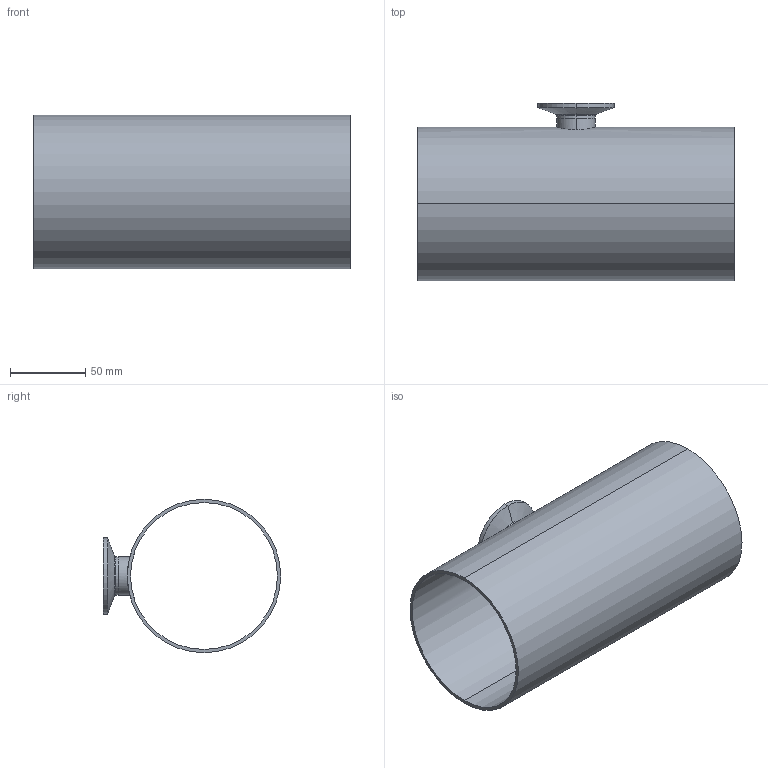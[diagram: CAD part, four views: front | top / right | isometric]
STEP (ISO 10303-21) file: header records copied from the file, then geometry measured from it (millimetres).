
FILE_DESCRIPTION (( 'STEP AP214' ), '1' );
FILE_NAME ('TE7RWWCS6L4.0x1.0-...STEP', '2016-05-23T12:26:49', ( 'eran' ), ( '' ), 'SwSTEP 2.0', 'SolidWorks 2016', '' );
FILE_SCHEMA (( 'AUTOMOTIVE_DESIGN' ));
Length unit declared in the file: millimetre
Products named in the file (1): TE7RWWCS6L4.0x1.0-..
Bounding box: 209.6 x 117.5 x 101.6 mm (x, y, z)
Volume: 146532 mm3; surface area: 137429 mm2
Topology: 2 solids, 2 shells, 36 faces, 88 edges, 58 vertices
Faces by surface type: cylinder 14, bspline 10, plane 6, cone 6
Entity records: 1839 total; most frequent: CARTESIAN_POINT 935, DIRECTION 190, ORIENTED_EDGE 176, EDGE_CURVE 88, AXIS2_PLACEMENT_3D 85, CIRCLE 58, VERTEX_POINT 58, EDGE_LOOP 44
